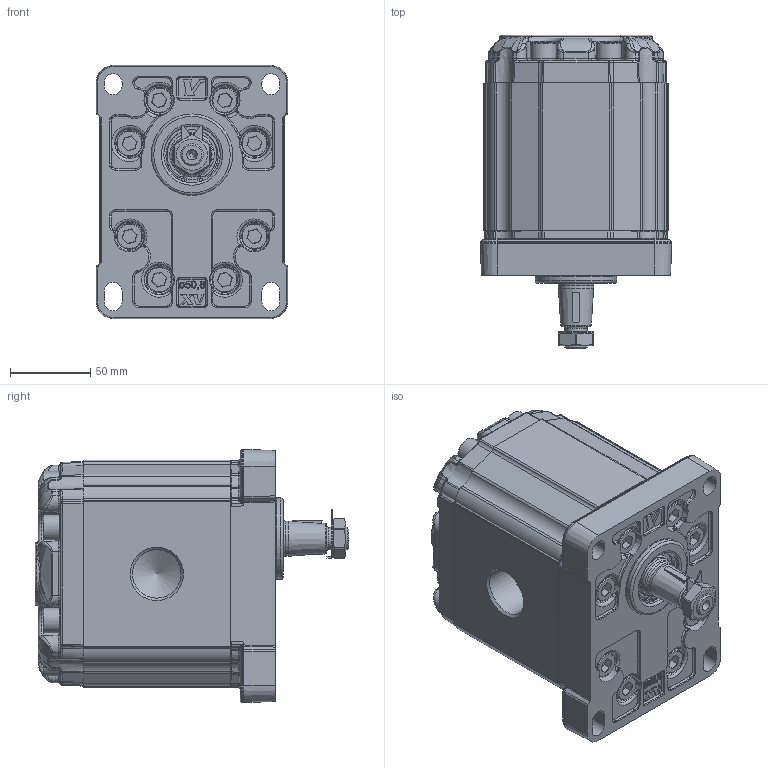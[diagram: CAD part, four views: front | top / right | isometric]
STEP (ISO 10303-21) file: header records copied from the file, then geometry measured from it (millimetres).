
FILE_DESCRIPTION( ( 'Unknown' ), '1' );
FILE_NAME( 'P:/montaggio_easy/output/STP/X3P8002AEEA.stp', 'Unknown', ( 'Unknown' ), ( 'Unknown' ), 'PSStep 14.0', 'Unknown', ' ' );
FILE_SCHEMA( ( 'AUTOMOTIVE_DESIGN { 1 0 10303 214 1 1 1 1 }' ) );
Length unit declared in the file: millimetre
Products named in the file (5): Assem1; X3P02; 3A; X3EEH92; XP301-A
Bounding box: 119.47 x 196 x 158.07 mm (x, y, z)
Surface area: 411188.9 mm2
Topology: 8 solids, 42 shells, 5762 faces, 14978 edges, 9502 vertices
Faces by surface type: bspline 2190, plane 1814, cylinder 1236, torus 218, cone 146, extrusion 96, sphere 56, revolution 4, offset 2
Full cylindrical faces by diameter (mm): 2 x4, 10 x32, 14 x4, 15.8 x32, 16 x32, 22 x2, 24.98 x2, 25 x4, 25.968 x2, 28.16 x2, 30.291 x4, 31.293 x2, 32.742 x2, 34.956 x2, 35 x2, 35.2 x2, 37 x2, 50.8 x2
Entity records: 138228 total; most frequent: CARTESIAN_POINT 58519, ORIENTED_EDGE 14514, EDGE_CURVE 7257, DIRECTION 7181, VERTEX_POINT 4687, B_SPLINE_CURVE_WITH_KNOTS 3871, EDGE_LOOP 3164, FACE_OUTER_BOUND 2983
